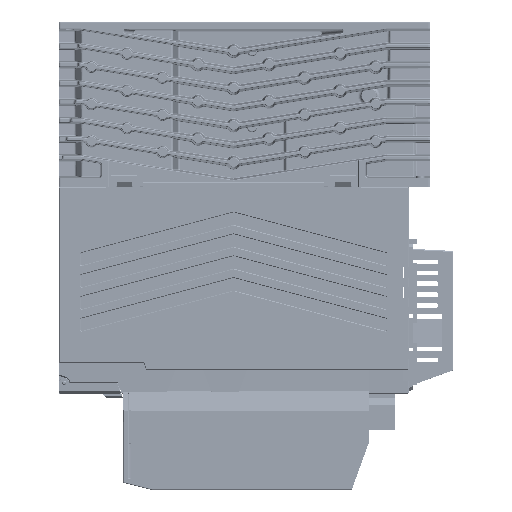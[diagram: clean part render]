
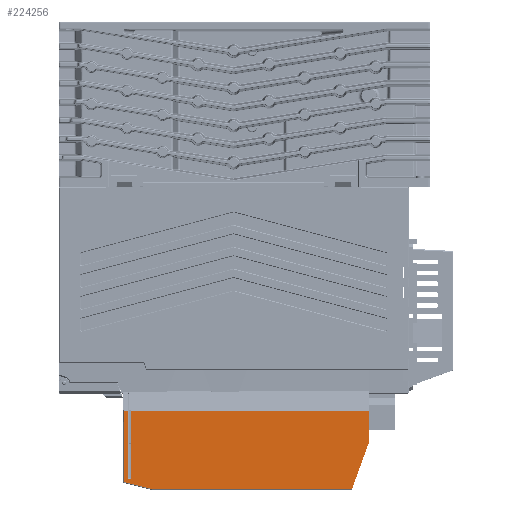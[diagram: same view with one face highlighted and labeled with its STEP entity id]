
A CAD part, top view. The second image highlights one B-rep face of the part: STEP entity #224256.
In plain terms, the highlighted planar face has unit normal (0, 0, 1) as drawn and (1, 0, 0) by its records, which use the part's own axes.
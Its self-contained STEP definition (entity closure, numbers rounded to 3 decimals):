
#222186=DIRECTION('',(0.,-1.,0.));
#222187=VECTOR('',#222186,91.066);
#222188=CARTESIAN_POINT('',(17.,5.524,44.5));
#222189=LINE('',#222188,#222187);
#222194=CARTESIAN_POINT('',(17.,16.14,39.5));
#222195=DIRECTION('',(1.,0.,0.));
#222196=DIRECTION('',(0.,0.,1.));
#222197=AXIS2_PLACEMENT_3D('',#222194,#222195,#222196);
#222199=DIRECTION('',(0.,0.,-1.));
#222200=VECTOR('',#222199,30.6);
#222201=CARTESIAN_POINT('',(17.,15.64,39.5));
#222202=LINE('',#222201,#222200);
#222203=DIRECTION('',(0.,-1.,0.));
#222204=VECTOR('',#222203,109.);
#222205=CARTESIAN_POINT('',(17.,15.64,8.9));
#222206=LINE('',#222205,#222204);
#222207=DIRECTION('',(0.,0.,1.));
#222208=VECTOR('',#222207,14.1);
#222209=CARTESIAN_POINT('',(17.,-93.36,8.9));
#222210=LINE('',#222209,#222208);
#222211=DIRECTION('',(0.,0.342,0.94));
#222212=VECTOR('',#222211,22.877);
#222213=CARTESIAN_POINT('',(17.,-93.36,23.));
#222214=LINE('',#222213,#222212);
#222215=CARTESIAN_POINT('',(17.,5.524,40.));
#222216=DIRECTION('',(-1.,0.,0.));
#222217=DIRECTION('',(0.,0.,1.));
#222218=AXIS2_PLACEMENT_3D('',#222215,#222216,#222217);
#222220=DIRECTION('',(0.,0.97,-0.243));
#222221=VECTOR('',#222220,12.394);
#222222=CARTESIAN_POINT('',(17.,6.616,44.366));
#222223=LINE('',#222222,#222221);
#222224=DIRECTION('',(0.,-1.,0.));
#222225=VECTOR('',#222224,1.5);
#222226=CARTESIAN_POINT('',(17.,18.64,8.9));
#222227=LINE('',#222226,#222225);
#222228=CARTESIAN_POINT('',(17.,16.14,39.469));
#222229=DIRECTION('',(1.,0.,0.));
#222230=DIRECTION('',(0.,1.,0.));
#222231=AXIS2_PLACEMENT_3D('',#222228,#222229,#222230);
#222233=CARTESIAN_POINT('',(17.,16.639,39.5));
#222234=DIRECTION('',(1.,0.,0.));
#222235=DIRECTION('',(0.,0.998,0.062));
#222236=AXIS2_PLACEMENT_3D('',#222233,#222234,#222235);
#222238=DIRECTION('',(0.,1.,0.));
#222239=VECTOR('',#222238,0.499);
#222240=CARTESIAN_POINT('',(17.,16.14,40.));
#222241=LINE('',#222240,#222239);
#222504=DIRECTION('',(0.,0.,-1.));
#222505=VECTOR('',#222504,30.569);
#222506=CARTESIAN_POINT('',(17.,17.14,39.469));
#222507=LINE('',#222506,#222505);
#222572=DIRECTION('',(0.,0.,1.));
#222573=VECTOR('',#222572,32.46);
#222574=CARTESIAN_POINT('',(17.,18.64,8.9));
#222575=LINE('',#222574,#222573);
#223781=CARTESIAN_POINT('',(17.,5.524,44.5));
#223782=CARTESIAN_POINT('',(17.,-85.542,44.5));
#223783=VERTEX_POINT('',#223781);
#223784=VERTEX_POINT('',#223782);
#223785=CARTESIAN_POINT('',(17.,16.14,40.));
#223786=CARTESIAN_POINT('',(17.,16.639,40.));
#223787=VERTEX_POINT('',#223785);
#223788=VERTEX_POINT('',#223786);
#223789=CARTESIAN_POINT('',(17.,15.64,39.5));
#223790=VERTEX_POINT('',#223789);
#223791=CARTESIAN_POINT('',(17.,15.64,8.9));
#223792=VERTEX_POINT('',#223791);
#223793=CARTESIAN_POINT('',(17.,-93.36,8.9));
#223794=VERTEX_POINT('',#223793);
#223795=CARTESIAN_POINT('',(17.,-93.36,23.));
#223796=VERTEX_POINT('',#223795);
#223797=CARTESIAN_POINT('',(17.,6.616,44.366));
#223798=VERTEX_POINT('',#223797);
#223799=CARTESIAN_POINT('',(17.,18.64,41.36));
#223800=VERTEX_POINT('',#223799);
#223801=CARTESIAN_POINT('',(17.,18.64,8.9));
#223802=VERTEX_POINT('',#223801);
#223803=CARTESIAN_POINT('',(17.,17.14,8.9));
#223804=VERTEX_POINT('',#223803);
#223805=CARTESIAN_POINT('',(17.,17.14,39.469));
#223806=VERTEX_POINT('',#223805);
#223807=CARTESIAN_POINT('',(17.,17.138,39.531));
#223808=VERTEX_POINT('',#223807);
#224222=CARTESIAN_POINT('',(17.,-93.36,0.));
#224223=DIRECTION('',(1.,0.,0.));
#224224=DIRECTION('',(0.,1.,0.));
#224225=AXIS2_PLACEMENT_3D('',#224222,#224223,#224224);
#224226=PLANE('',#224225);
#224228=ORIENTED_EDGE('',*,*,#224227,.F.);
#224230=ORIENTED_EDGE('',*,*,#224229,.T.);
#224232=ORIENTED_EDGE('',*,*,#224231,.T.);
#224234=ORIENTED_EDGE('',*,*,#224233,.T.);
#224236=ORIENTED_EDGE('',*,*,#224235,.T.);
#224238=ORIENTED_EDGE('',*,*,#224237,.T.);
#224239=ORIENTED_EDGE('',*,*,#224212,.F.);
#224241=ORIENTED_EDGE('',*,*,#224240,.T.);
#224243=ORIENTED_EDGE('',*,*,#224242,.T.);
#224245=ORIENTED_EDGE('',*,*,#224244,.F.);
#224247=ORIENTED_EDGE('',*,*,#224246,.T.);
#224249=ORIENTED_EDGE('',*,*,#224248,.F.);
#224251=ORIENTED_EDGE('',*,*,#224250,.T.);
#224253=ORIENTED_EDGE('',*,*,#224252,.T.);
#224254=EDGE_LOOP('',(#224228,#224230,#224232,#224234,#224236,#224238,#224239,
#224241,#224243,#224245,#224247,#224249,#224251,#224253));
#224255=FACE_OUTER_BOUND('',#224254,.F.);
#222198=CIRCLE('',#222197,0.5);
#222219=CIRCLE('',#222218,4.5);
#222232=CIRCLE('',#222231,1.);
#222237=CIRCLE('',#222236,0.5);
#224212=EDGE_CURVE('',#223783,#223784,#222189,.T.);
#224227=EDGE_CURVE('',#223787,#223788,#222241,.T.);
#224229=EDGE_CURVE('',#223787,#223790,#222198,.T.);
#224231=EDGE_CURVE('',#223790,#223792,#222202,.T.);
#224233=EDGE_CURVE('',#223792,#223794,#222206,.T.);
#224235=EDGE_CURVE('',#223794,#223796,#222210,.T.);
#224237=EDGE_CURVE('',#223796,#223784,#222214,.T.);
#224240=EDGE_CURVE('',#223783,#223798,#222219,.T.);
#224242=EDGE_CURVE('',#223798,#223800,#222223,.T.);
#224244=EDGE_CURVE('',#223802,#223800,#222575,.T.);
#224246=EDGE_CURVE('',#223802,#223804,#222227,.T.);
#224248=EDGE_CURVE('',#223806,#223804,#222507,.T.);
#224250=EDGE_CURVE('',#223806,#223808,#222232,.T.);
#224252=EDGE_CURVE('',#223808,#223788,#222237,.T.);
#224256=ADVANCED_FACE('',(#224255),#224226,.T.);
